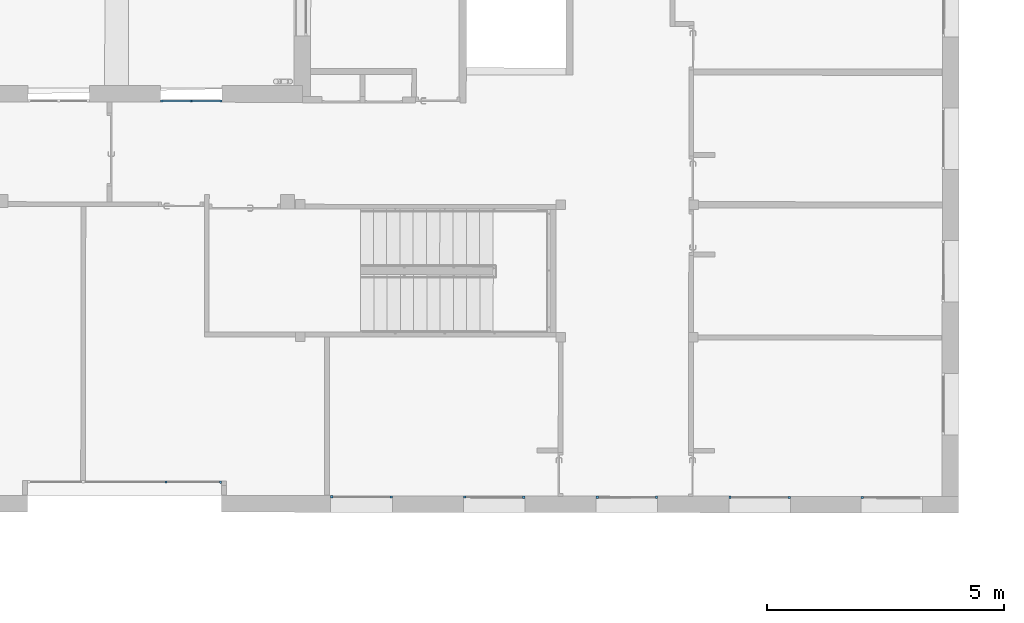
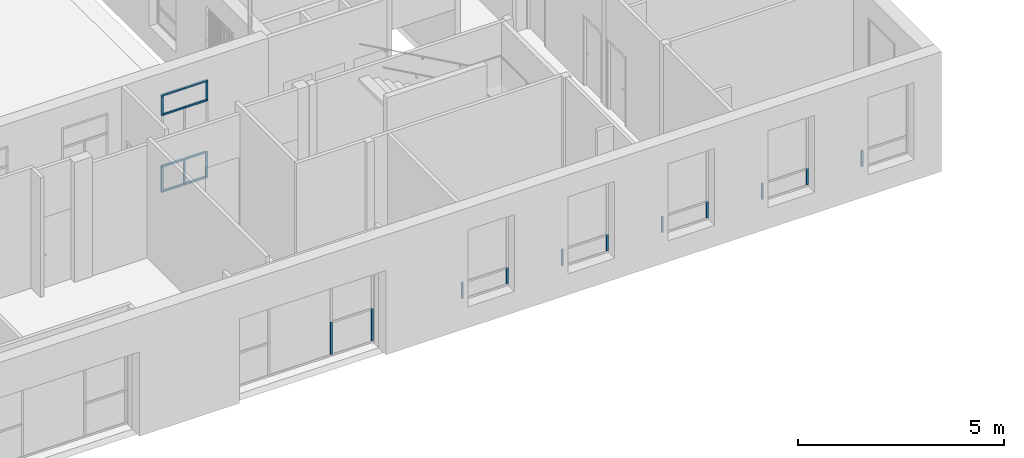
# One storey, part 27 of 101: 24 members, 7 elements without a shape of their own.
"""IFC2X3 building model written with IfcOpenShell, lengths in metres."""

from ifc_helpers import new_model, entity, si_unit, converted_unit, derived_unit, direction, frame, frame_2d, origin, origin_2d_with_axis, place, context, subcontext, project, spatial, rectangle, extrude, source, transform, mapped, material, type_object, type_shapes, element, aggregate, save


model = new_model("IFC2X3")

# Units and contexts
model_context = context("Model", 3, precision=1e-05, world=origin(), true_north=direction((6.123233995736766e-17, 1.0)))
body_context = subcontext(model_context, "Body", "Model", "MODEL_VIEW")
ifc_project = project(units=[si_unit("LENGTHUNIT", "METRE"), si_unit("AREAUNIT", "SQUARE_METRE"), converted_unit("PLANEANGLEUNIT", "DEGREE", entity("IfcPlaneAngleMeasure", 0.017453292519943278), si_unit("PLANEANGLEUNIT", "RADIAN"), dimensions=[0, 0, 0, 0, 0, 0, 0]), derived_unit("THERMALTRANSMITTANCEUNIT", [(si_unit("MASSUNIT", "GRAM", prefix="KILO"), 1), (si_unit("THERMODYNAMICTEMPERATUREUNIT", "KELVIN"), -1), (si_unit("TIMEUNIT", "SECOND"), -3)])], contexts=[model_context])

# Site, building, storey
site_placement = place(None, frame((1253.6752467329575, 2072.143113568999, 91.49999999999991), z_axis=(0.0, 0.0, 1.0), x_axis=(0.7237211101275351, 0.6900925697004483, 0.0)))
site = spatial("IfcSite", under=ifc_project, at=site_placement, Name="Surface", CompositionType="ELEMENT")
building_placement = place(site_placement, origin())
building = spatial("IfcBuilding", under=site, at=building_placement, CompositionType="ELEMENT")
storey_placement = place(building_placement, origin())
storey = spatial("IfcBuildingStorey", under=building, at=storey_placement, Name="0- Rdc", CompositionType="ELEMENT", Elevation=-5.764692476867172e-13)

# Curtain wall, member
curtain_wall_type_1 = type_object("IfcCurtainWallType", Name="Mur-rideau:Menuiserie Ext 1F+1OB VERTIC", PredefinedType="NOTDEFINED")
curtain_wall_1_placement = place(storey_placement, origin())
curtain_wall_1 = element("IfcCurtainWall", 1, at=curtain_wall_1_placement, inside=storey, type_object=curtain_wall_type_1, Name="Mur-rideau:Menuiserie Ext 1F+1OB VERTIC", ObjectType="Mur-rideau:Menuiserie Ext 1F+1OB VERTIC")
ifc_material = material(Name="OMD_Aluminium Men Ext")
member_type_1 = type_object("IfcMemberType", Name="Meneau rectangulaire:50x50", PredefinedType="MULLION", material=ifc_material)
shared_shape_1 = source(origin(), body_context, "Body", "SweptSolid", [
    extrude(rectangle(XDim=0.05, YDim=0.049999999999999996, at=origin_2d_with_axis()), frame((-0.025, 0.0, -0.4699999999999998), z_axis=(0.0, 0.0, 1.0), x_axis=(-1.0, 0.0, 0.0)), (0.0, 0.0, 1.0), 0.4699999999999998),
])
type_shapes(member_type_1, [shared_shape_1])
member_1_placement = place(curtain_wall_1_placement, frame((178.03940840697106, -28.07279604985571, 0.6699999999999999), z_axis=(0.0, 0.0, -1.0), x_axis=(-0.7228702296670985, 0.6909838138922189, 0.0)))
member_1 = element("IfcMember", 2, at=member_1_placement, type_object=member_type_1, material=ifc_material, Name="Meneau rectangulaire:50x50", ObjectType="Meneau rectangulaire:50x50", context=body_context, shape_type="MappedRepresentation", body=[
    mapped(shared_shape_1, transform((0.0, 0.0, 0.0), scale=1.0)),
])
aggregate(curtain_wall_1, [member_1])

curtain_wall_2_placement = place(storey_placement, origin())
curtain_wall_2 = element("IfcCurtainWall", 3, at=curtain_wall_2_placement, inside=storey, type_object=curtain_wall_type_1, Name="Mur-rideau:Menuiserie Ext 1F+1OB VERTIC", ObjectType="Mur-rideau:Menuiserie Ext 1F+1OB VERTIC")
member_2_placement = place(curtain_wall_2_placement, frame((176.02153200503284, -26.143929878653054, 0.6699999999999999), z_axis=(0.0, 0.0, -1.0), x_axis=(-0.7228702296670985, 0.6909838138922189, 0.0)))
member_2 = element("IfcMember", 4, at=member_2_placement, type_object=member_type_1, material=ifc_material, Name="Meneau rectangulaire:50x50", ObjectType="Meneau rectangulaire:50x50", context=body_context, shape_type="MappedRepresentation", body=[
    mapped(shared_shape_1, transform((0.0, 0.0, 0.0), scale=1.0)),
])

curtain_wall_3_placement = place(storey_placement, origin())
curtain_wall_3 = element("IfcCurtainWall", 5, at=curtain_wall_3_placement, inside=storey, type_object=curtain_wall_type_1, Name="Mur-rideau:Menuiserie Ext 1F+1OB VERTIC", ObjectType="Mur-rideau:Menuiserie Ext 1F+1OB VERTIC")
member_3_placement = place(curtain_wall_3_placement, frame((173.99749536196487, -24.20917519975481, 0.6699999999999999), z_axis=(0.0, 0.0, -1.0), x_axis=(-0.7228702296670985, 0.6909838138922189, 0.0)))
member_3 = element("IfcMember", 6, at=member_3_placement, type_object=member_type_1, material=ifc_material, Name="Meneau rectangulaire:50x50", ObjectType="Meneau rectangulaire:50x50", context=body_context, shape_type="MappedRepresentation", body=[
    mapped(shared_shape_1, transform((0.0, 0.0, 0.0), scale=1.0)),
])

curtain_wall_4_placement = place(storey_placement, origin())
curtain_wall_4 = element("IfcCurtainWall", 7, at=curtain_wall_4_placement, inside=storey, type_object=curtain_wall_type_1, Name="Mur-rideau:Menuiserie Ext 1F+1OB VERTIC", ObjectType="Mur-rideau:Menuiserie Ext 1F+1OB VERTIC")
member_4_placement = place(curtain_wall_4_placement, frame((171.97345871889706, -22.27442052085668, 0.6699999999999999), z_axis=(0.0, 0.0, -1.0), x_axis=(-0.7228702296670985, 0.6909838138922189, 0.0)))
member_4 = element("IfcMember", 8, at=member_4_placement, type_object=member_type_1, material=ifc_material, Name="Meneau rectangulaire:50x50", ObjectType="Meneau rectangulaire:50x50", context=body_context, shape_type="MappedRepresentation", body=[
    mapped(shared_shape_1, transform((0.0, 0.0, 0.0), scale=1.0)),
])

curtain_wall_5_placement = place(storey_placement, origin())
curtain_wall_5 = element("IfcCurtainWall", 9, at=curtain_wall_5_placement, inside=storey, type_object=curtain_wall_type_1, Name="Mur-rideau:Menuiserie Ext 1F+1OB VERTIC", ObjectType="Mur-rideau:Menuiserie Ext 1F+1OB VERTIC")
member_5_placement = place(curtain_wall_5_placement, frame((169.94942207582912, -20.339665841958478, 0.6699999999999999), z_axis=(0.0, 0.0, -1.0), x_axis=(-0.7228702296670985, 0.6909838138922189, 0.0)))
member_5 = element("IfcMember", 10, at=member_5_placement, type_object=member_type_1, material=ifc_material, Name="Meneau rectangulaire:50x50", ObjectType="Meneau rectangulaire:50x50", context=body_context, shape_type="MappedRepresentation", body=[
    mapped(shared_shape_1, transform((0.0, 0.0, 0.0), scale=1.0)),
])

# Member
member_type_2 = type_object("IfcMemberType", Name="Meneau rectangulaire:50x50", PredefinedType="MULLION", material=ifc_material)
shared_shape_2 = source(origin(), body_context, "Body", "SweptSolid", [
    extrude(rectangle(XDim=0.05, YDim=0.049999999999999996, at=origin_2d_with_axis()), frame((-0.025, 0.0, -0.4699999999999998), z_axis=(0.0, 0.0, 1.0), x_axis=(-1.0, 0.0, 0.0)), (0.0, 0.0, 1.0), 0.4699999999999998),
])
type_shapes(member_type_2, [shared_shape_2])
member_6_placement = place(curtain_wall_2_placement, frame((176.96104348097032, -27.041998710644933, 1.14), z_axis=(0.0, 0.0, 1.0), x_axis=(0.7228702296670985, -0.6909838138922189, 0.0)))
member_6 = element("IfcMember", 11, at=member_6_placement, type_object=member_type_2, material=ifc_material, Name="Meneau rectangulaire:50x50", ObjectType="Meneau rectangulaire:50x50", context=body_context, shape_type="MappedRepresentation", body=[
    mapped(shared_shape_2, transform((0.0, 0.0, 0.0), scale=1.0)),
])

aggregate(curtain_wall_2, [member_2, member_6])

member_7_placement = place(curtain_wall_3_placement, frame((174.9370068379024, -25.107244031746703, 1.14), z_axis=(0.0, 0.0, 1.0), x_axis=(0.7228702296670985, -0.6909838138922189, 0.0)))
member_7 = element("IfcMember", 12, at=member_7_placement, type_object=member_type_2, material=ifc_material, Name="Meneau rectangulaire:50x50", ObjectType="Meneau rectangulaire:50x50", context=body_context, shape_type="MappedRepresentation", body=[
    mapped(shared_shape_2, transform((0.0, 0.0, 0.0), scale=1.0)),
])

aggregate(curtain_wall_3, [member_3, member_7])

member_8_placement = place(curtain_wall_4_placement, frame((172.91297019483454, -23.172489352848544, 1.14), z_axis=(0.0, 0.0, 1.0), x_axis=(0.7228702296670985, -0.6909838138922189, 0.0)))
member_8 = element("IfcMember", 13, at=member_8_placement, type_object=member_type_2, material=ifc_material, Name="Meneau rectangulaire:50x50", ObjectType="Meneau rectangulaire:50x50", context=body_context, shape_type="MappedRepresentation", body=[
    mapped(shared_shape_2, transform((0.0, 0.0, 0.0), scale=1.0)),
])

aggregate(curtain_wall_4, [member_4, member_8])

member_9_placement = place(curtain_wall_5_placement, frame((170.88893355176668, -21.237734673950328, 1.14), z_axis=(0.0, 0.0, 1.0), x_axis=(0.7228702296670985, -0.6909838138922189, 0.0)))
member_9 = element("IfcMember", 14, at=member_9_placement, type_object=member_type_2, material=ifc_material, Name="Meneau rectangulaire:50x50", ObjectType="Meneau rectangulaire:50x50", context=body_context, shape_type="MappedRepresentation", body=[
    mapped(shared_shape_2, transform((0.0, 0.0, 0.0), scale=1.0)),
])

aggregate(curtain_wall_5, [member_5, member_9])

# Curtain wall, members
curtain_wall_type_2 = type_object("IfcCurtainWallType", Name="Mur-rideau:Menuiserie Ext 2OF+1F VERTIC", PredefinedType="NOTDEFINED")
curtain_wall_6_placement = place(storey_placement, origin())
curtain_wall_6 = element("IfcCurtainWall", 15, at=curtain_wall_6_placement, inside=storey, type_object=curtain_wall_type_2, Name="Mur-rideau:Menuiserie Ext 2OF+1F VERTIC", ObjectType="Mur-rideau:Menuiserie Ext 2OF+1F VERTIC")
member_type_3 = type_object("IfcMemberType", Name="Meneau rectangulaire:50x50", PredefinedType="MULLION", material=ifc_material)
shared_shape_3 = source(origin(), body_context, "Body", "SweptSolid", [
    extrude(rectangle(XDim=0.05, YDim=0.05, at=origin_2d_with_axis()), frame((0.0, 0.0, -0.5748479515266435), z_axis=(0.0, 0.0, 1.0), x_axis=(-1.0, 0.0, 0.0)), (0.0, 0.0, 1.0), 0.5748479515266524),
])
type_shapes(member_type_3, [shared_shape_3])
member_10_placement = place(curtain_wall_6_placement, frame((173.60463158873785, -12.282466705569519, 0.7666666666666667), z_axis=(-0.7228702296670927, 0.6909838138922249, 0.0), x_axis=(0.0, 0.0, 1.0)))
member_10 = element("IfcMember", 16, at=member_10_placement, type_object=member_type_3, material=ifc_material, Name="Meneau rectangulaire:50x50", ObjectType="Meneau rectangulaire:50x50", context=body_context, shape_type="MappedRepresentation", body=[
    mapped(shared_shape_3, transform((0.0, 0.0, 0.0), scale=1.0)),
])
member_type_4 = type_object("IfcMemberType", Name="Meneau rectangulaire:50x50", PredefinedType="MULLION", material=ifc_material)
shared_shape_4 = source(origin(), body_context, "Body", "SweptSolid", [
    extrude(rectangle(XDim=0.05, YDim=0.05, at=origin_2d_with_axis()), frame((-0.025, 0.0, -0.649847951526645), z_axis=(0.0, 0.0, 1.0), x_axis=(-1.0, 0.0, 0.0)), (0.0, 0.0, 1.0), 0.6498479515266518),
])
type_shapes(member_type_4, [shared_shape_4])
member_11_placement = place(curtain_wall_6_placement, frame((173.11680409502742, -11.816157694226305, 2.8999999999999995), z_axis=(-0.722870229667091, 0.6909838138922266, 0.0), x_axis=(0.0, 0.0, 1.0)))
member_11 = element("IfcMember", 17, at=member_11_placement, type_object=member_type_4, material=ifc_material, Name="Meneau rectangulaire:50x50", ObjectType="Meneau rectangulaire:50x50", context=body_context, shape_type="MappedRepresentation", body=[
    mapped(shared_shape_4, transform((0.0, 0.0, 0.0), scale=1.0)),
])
member_type_5 = type_object("IfcMemberType", Name="Meneau rectangulaire:50x50", PredefinedType="MULLION", material=ifc_material)
shared_shape_5 = source(origin(), body_context, "Body", "SweptSolid", [
    extrude(rectangle(XDim=0.05, YDim=0.05, at=origin_2d_with_axis()), frame((-0.025, 0.0, -0.6498479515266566), z_axis=(0.0, 0.0, 1.0), x_axis=(-1.0, 0.0, 0.0)), (0.0, 0.0, 1.0), 0.6498479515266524),
])
type_shapes(member_type_5, [shared_shape_5])
member_12_placement = place(curtain_wall_6_placement, frame((174.05631557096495, -12.71422652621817, 0.0), z_axis=(0.7228702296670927, -0.6909838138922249, 0.0), x_axis=(0.0, 0.0, -1.0)))
member_12 = element("IfcMember", 18, at=member_12_placement, type_object=member_type_5, material=ifc_material, Name="Meneau rectangulaire:50x50", ObjectType="Meneau rectangulaire:50x50", context=body_context, shape_type="MappedRepresentation", body=[
    mapped(shared_shape_5, transform((0.0, 0.0, 0.0), scale=1.0)),
])
member_type_6 = type_object("IfcMemberType", Name="Meneau rectangulaire:50x50", PredefinedType="MULLION", material=ifc_material)
shared_shape_6 = source(origin(), body_context, "Body", "SweptSolid", [
    extrude(rectangle(XDim=0.05, YDim=0.049999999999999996, at=origin_2d_with_axis()), frame((-0.025, 0.0, -0.6916666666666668), z_axis=(0.0, 0.0, 1.0), x_axis=(-1.0, 0.0, 0.0)), (0.0, 0.0, 1.0), 0.6916666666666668),
])
type_shapes(member_type_6, [shared_shape_6])
member_13_placement = place(curtain_wall_6_placement, frame((173.11680409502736, -11.816157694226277, 0.05), z_axis=(0.0, 0.0, -1.0), x_axis=(-0.7228702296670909, 0.6909838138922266, 0.0)))
member_13 = element("IfcMember", 19, at=member_13_placement, type_object=member_type_6, material=ifc_material, Name="Meneau rectangulaire:50x50", ObjectType="Meneau rectangulaire:50x50", context=body_context, shape_type="MappedRepresentation", body=[
    mapped(shared_shape_6, transform((0.0, 0.0, 0.0), scale=1.0)),
])
member_type_7 = type_object("IfcMemberType", Name="Meneau rectangulaire:50x50", PredefinedType="MULLION", material=ifc_material)
shared_shape_7 = source(origin(), body_context, "Body", "SweptSolid", [
    extrude(rectangle(XDim=0.05, YDim=0.049999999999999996, at=origin_2d_with_axis()), frame((-0.025, 0.0, -0.5249999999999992), z_axis=(0.0, 0.0, 1.0), x_axis=(-1.0, 0.0, 0.0)), (0.0, 0.0, 1.0), 0.5249999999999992),
])
type_shapes(member_type_7, [shared_shape_7])
member_14_placement = place(curtain_wall_6_placement, frame((174.0563155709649, -12.714226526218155, 2.8499999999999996), z_axis=(0.0, 0.0, 1.0), x_axis=(0.7228702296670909, -0.6909838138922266, 0.0)))
member_14 = element("IfcMember", 20, at=member_14_placement, type_object=member_type_7, material=ifc_material, Name="Meneau rectangulaire:50x50", ObjectType="Meneau rectangulaire:50x50", context=body_context, shape_type="MappedRepresentation", body=[
    mapped(shared_shape_7, transform((0.0, 0.0, 0.0), scale=1.0)),
])
member_type_8 = type_object("IfcMemberType", Name="Meneau rectangulaire:50x50", PredefinedType="MULLION", material=ifc_material)
shared_shape_8 = source(origin(), body_context, "Body", "SweptSolid", [
    extrude(rectangle(XDim=0.05, YDim=0.05, at=origin_2d_with_axis()), frame((-0.025, 0.0, -0.5249999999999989), z_axis=(0.0, 0.0, 1.0), x_axis=(-1.0, 0.0, 0.0)), (0.0, 0.0, 1.0), 0.5249999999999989),
])
type_shapes(member_type_8, [shared_shape_8])
member_15_placement = place(curtain_wall_6_placement, frame((173.11680409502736, -11.816157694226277, 2.325), z_axis=(0.0, 0.0, -1.0), x_axis=(-0.7228702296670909, 0.6909838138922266, 0.0)))
member_15 = element("IfcMember", 21, at=member_15_placement, type_object=member_type_8, material=ifc_material, Name="Meneau rectangulaire:50x50", ObjectType="Meneau rectangulaire:50x50", context=body_context, shape_type="MappedRepresentation", body=[
    mapped(shared_shape_8, transform((0.0, 0.0, 0.0), scale=1.0)),
])
member_type_9 = type_object("IfcMemberType", Name="Meneau rectangulaire:50x50", PredefinedType="MULLION", material=ifc_material)
shared_shape_9 = source(origin(), body_context, "Body", "SweptSolid", [
    extrude(rectangle(XDim=0.05, YDim=0.05, at=origin_2d_with_axis()), frame((0.0, 0.0, -0.6498479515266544), z_axis=(0.0, 0.0, 1.0), x_axis=(-1.0, 0.0, 0.0)), (0.0, 0.0, 1.0), 0.6498479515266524),
])
type_shapes(member_type_9, [shared_shape_9])
member_16_placement = place(curtain_wall_6_placement, frame((173.58655983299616, -12.265192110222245, 2.3000000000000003), z_axis=(-0.7228702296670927, 0.6909838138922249, 0.0), x_axis=(0.0, 0.0, 1.0)))
member_16 = element("IfcMember", 22, at=member_16_placement, type_object=member_type_9, material=ifc_material, Name="Meneau rectangulaire:50x50", ObjectType="Meneau rectangulaire:50x50", context=body_context, shape_type="MappedRepresentation", body=[
    mapped(shared_shape_9, transform((0.0, 0.0, 0.0), scale=1.0)),
])
member_type_10 = type_object("IfcMemberType", Name="Meneau rectangulaire:50x50", PredefinedType="MULLION", material=ifc_material)
shared_shape_10 = source(origin(), body_context, "Body", "SweptSolid", [
    extrude(rectangle(XDim=0.05, YDim=0.049999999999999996, at=origin_2d_with_axis()), frame((-0.025, 0.0, -0.6498479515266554), z_axis=(0.0, 0.0, 1.0), x_axis=(-1.0, 0.0, 0.0)), (0.0, 0.0, 1.0), 0.6498479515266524),
])
type_shapes(member_type_10, [shared_shape_10])
member_17_placement = place(curtain_wall_6_placement, frame((173.58655983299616, -12.265192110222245, 2.8999999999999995), z_axis=(-0.7228702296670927, 0.6909838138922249, 0.0), x_axis=(0.0, 0.0, 1.0)))
member_17 = element("IfcMember", 23, at=member_17_placement, type_object=member_type_10, material=ifc_material, Name="Meneau rectangulaire:50x50", ObjectType="Meneau rectangulaire:50x50", context=body_context, shape_type="MappedRepresentation", body=[
    mapped(shared_shape_10, transform((0.0, 0.0, 0.0), scale=1.0)),
])
member_type_11 = type_object("IfcMemberType", Name="Meneau rectangulaire:50x50", PredefinedType="MULLION", material=ifc_material)
shared_shape_11 = source(origin(), body_context, "Body", "SweptSolid", [
    extrude(rectangle(XDim=0.05, YDim=0.05, at=origin_2d_with_axis()), frame((-0.025, 0.0, -0.6498479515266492), z_axis=(0.0, 0.0, 1.0), x_axis=(-1.0, 0.0, 0.0)), (0.0, 0.0, 1.0), 0.6498479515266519),
])
type_shapes(member_type_11, [shared_shape_11])
member_18_placement = place(curtain_wall_6_placement, frame((173.58655983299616, -12.265192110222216, 0.0), z_axis=(0.722870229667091, -0.6909838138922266, 0.0), x_axis=(0.0, 0.0, -1.0)))
member_18 = element("IfcMember", 24, at=member_18_placement, type_object=member_type_11, material=ifc_material, Name="Meneau rectangulaire:50x50", ObjectType="Meneau rectangulaire:50x50", context=body_context, shape_type="MappedRepresentation", body=[
    mapped(shared_shape_11, transform((0.0, 0.0, 0.0), scale=1.0)),
])
member_type_12 = type_object("IfcMemberType", Name="Meneau rectangulaire:50x50", PredefinedType="MULLION", material=ifc_material)
shared_shape_12 = source(origin(), body_context, "Body", "SweptSolid", [
    extrude(rectangle(XDim=0.05, YDim=0.05, at=origin_2d_with_axis()), frame((0.0, 0.0, -0.649847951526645), z_axis=(0.0, 0.0, 1.0), x_axis=(-1.0, 0.0, 0.0)), (0.0, 0.0, 1.0), 0.6498479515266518),
])
type_shapes(member_type_12, [shared_shape_12])
member_19_placement = place(curtain_wall_6_placement, frame((173.11680409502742, -11.816157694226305, 2.3000000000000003), z_axis=(-0.722870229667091, 0.6909838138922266, 0.0), x_axis=(0.0, 0.0, 1.0)))
member_19 = element("IfcMember", 25, at=member_19_placement, type_object=member_type_12, material=ifc_material, Name="Meneau rectangulaire:50x50", ObjectType="Meneau rectangulaire:50x50", context=body_context, shape_type="MappedRepresentation", body=[
    mapped(shared_shape_12, transform((0.0, 0.0, 0.0), scale=1.0)),
])
member_type_13 = type_object("IfcMemberType", Name="Meneau rectangulaire:50x50", PredefinedType="MULLION", material=ifc_material)
shared_shape_13 = source(origin(), body_context, "Body", "SweptSolid", [
    extrude(rectangle(XDim=0.05, YDim=0.05, at=frame_2d((0.0, 1.734723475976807e-18), x_axis=(1.0, 0.0))), frame((0.0, 0.0, -0.7166666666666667), z_axis=(0.0, 0.0, 1.0), x_axis=(-1.0, 0.0, 0.0)), (0.0, 0.0, 1.0), 0.7166666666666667),
])
type_shapes(member_type_13, [shared_shape_13])
member_20_placement = place(curtain_wall_6_placement, frame((173.58655983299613, -12.265192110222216, 0.05), z_axis=(0.0, 0.0, -1.0), x_axis=(-0.7228702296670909, 0.6909838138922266, 0.0)))
member_20 = element("IfcMember", 26, at=member_20_placement, type_object=member_type_13, material=ifc_material, Name="Meneau rectangulaire:50x50", ObjectType="Meneau rectangulaire:50x50", context=body_context, shape_type="MappedRepresentation", body=[
    mapped(shared_shape_13, transform((0.0, 0.0, 0.0), scale=1.0)),
])
member_type_14 = type_object("IfcMemberType", Name="Meneau rectangulaire:50x50", PredefinedType="MULLION", material=ifc_material)
shared_shape_14 = source(origin(), body_context, "Body", "SweptSolid", [
    extrude(rectangle(XDim=0.05, YDim=0.049999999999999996, at=origin_2d_with_axis()), frame((-0.025, 0.0, -0.7166666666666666), z_axis=(0.0, 0.0, 1.0), x_axis=(-1.0, 0.0, 0.0)), (0.0, 0.0, 1.0), 0.7166666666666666),
])
type_shapes(member_type_14, [shared_shape_14])
member_21_placement = place(curtain_wall_6_placement, frame((174.0563155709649, -12.714226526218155, 0.7666666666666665), z_axis=(0.0, 0.0, 1.0), x_axis=(0.7228702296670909, -0.6909838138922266, 0.0)))
member_21 = element("IfcMember", 27, at=member_21_placement, type_object=member_type_14, material=ifc_material, Name="Meneau rectangulaire:50x50", ObjectType="Meneau rectangulaire:50x50", context=body_context, shape_type="MappedRepresentation", body=[
    mapped(shared_shape_14, transform((0.0, 0.0, 0.0), scale=1.0)),
])
member_type_15 = type_object("IfcMemberType", Name="Meneau rectangulaire:50x50", PredefinedType="MULLION", material=ifc_material)
shared_shape_15 = source(origin(), body_context, "Body", "SweptSolid", [
    extrude(rectangle(XDim=0.05, YDim=0.05, at=origin_2d_with_axis()), frame((0.0, 0.0, -0.624847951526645), z_axis=(0.0, 0.0, 1.0), x_axis=(-1.0, 0.0, 0.0)), (0.0, 0.0, 1.0), 0.6248479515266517),
])
type_shapes(member_type_15, [shared_shape_15])
member_22_placement = place(curtain_wall_6_placement, frame((173.11680409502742, -11.816157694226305, 0.7666666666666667), z_axis=(-0.722870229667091, 0.6909838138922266, 0.0), x_axis=(0.0, 0.0, 1.0)))
member_22 = element("IfcMember", 28, at=member_22_placement, type_object=member_type_15, material=ifc_material, Name="Meneau rectangulaire:50x50", ObjectType="Meneau rectangulaire:50x50", context=body_context, shape_type="MappedRepresentation", body=[
    mapped(shared_shape_15, transform((0.0, 0.0, 0.0), scale=1.0)),
])
aggregate(curtain_wall_6, [member_11, member_12, member_13, member_14, member_15, member_16, member_17, member_18, member_19, member_20, member_21, member_22, member_10])

curtain_wall_7_placement = place(storey_placement, origin())
curtain_wall_7 = element("IfcCurtainWall", 29, at=curtain_wall_7_placement, inside=storey, type_object=curtain_wall_type_1, Name="Mur-rideau:Menuiserie Ext 1F+1OB VERTIC", ObjectType="Mur-rideau:Menuiserie Ext 1F+1OB VERTIC")
member_type_16 = type_object("IfcMemberType", Name="Meneau rectangulaire:50x50", PredefinedType="MULLION", material=ifc_material)
shared_shape_16 = source(origin(), body_context, "Body", "SweptSolid", [
    extrude(rectangle(XDim=0.05, YDim=0.05, at=frame_2d((0.0, -1.734723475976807e-18), x_axis=(1.0, 0.0))), frame((0.0, 0.0, -0.95), z_axis=(0.0, 0.0, 1.0), x_axis=(-1.0, 0.0, 0.0)), (0.0, 0.0, 1.0), 0.95),
])
type_shapes(member_type_16, [shared_shape_16])
member_23_placement = place(curtain_wall_7_placement, frame((167.65143318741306, -17.71419719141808, 0.05), z_axis=(0.0, 0.0, -1.0), x_axis=(-0.7228702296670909, 0.6909838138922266, 0.0)))
member_23 = element("IfcMember", 30, at=member_23_placement, type_object=member_type_16, material=ifc_material, Name="Meneau rectangulaire:50x50", ObjectType="Meneau rectangulaire:50x50", context=body_context, shape_type="MappedRepresentation", body=[
    mapped(shared_shape_16, transform((0.0, 0.0, 0.0), scale=1.0)),
])
member_type_17 = type_object("IfcMemberType", Name="Meneau rectangulaire:50x50", PredefinedType="MULLION", material=ifc_material)
shared_shape_17 = source(origin(), body_context, "Body", "SweptSolid", [
    extrude(rectangle(XDim=0.05, YDim=0.049999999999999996, at=origin_2d_with_axis()), frame((-0.025, 0.0, -0.95), z_axis=(0.0, 0.0, 1.0), x_axis=(-1.0, 0.0, 0.0)), (0.0, 0.0, 1.0), 0.95),
])
type_shapes(member_type_17, [shared_shape_17])
member_24_placement = place(curtain_wall_7_placement, frame((168.50080570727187, -18.52610317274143, 1.0), z_axis=(0.0, 0.0, 1.0), x_axis=(0.7228702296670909, -0.6909838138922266, 0.0)))
member_24 = element("IfcMember", 31, at=member_24_placement, type_object=member_type_17, material=ifc_material, Name="Meneau rectangulaire:50x50", ObjectType="Meneau rectangulaire:50x50", context=body_context, shape_type="MappedRepresentation", body=[
    mapped(shared_shape_17, transform((0.0, 0.0, 0.0), scale=1.0)),
])
aggregate(curtain_wall_7, [member_24, member_23])

save(model, "model.ifc")
